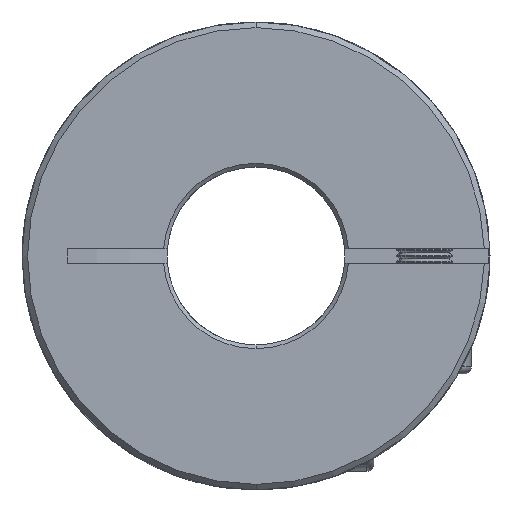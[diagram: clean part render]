
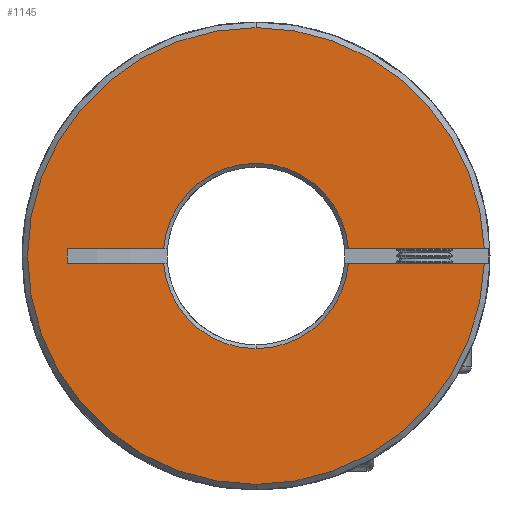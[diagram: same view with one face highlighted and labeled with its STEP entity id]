
A CAD part, front view. The second image highlights one B-rep face of the part: STEP entity #1145.
In plain terms, the highlighted planar face has unit normal (0, -1, 0).
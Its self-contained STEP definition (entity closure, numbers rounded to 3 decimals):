
#17 = EDGE_CURVE ( 'NONE', #12244, #13554, #8750, .T. ) ;
#184 = CARTESIAN_POINT ( 'NONE',  ( -50., 0., 32.858 ) ) ;
#500 = DIRECTION ( 'NONE',  ( 0., 0., 1. ) ) ;
#513 = DIRECTION ( 'NONE',  ( 0., 1., 0. ) ) ;
#555 = CARTESIAN_POINT ( 'NONE',  ( 0., 0., 0. ) ) ;
#652 = DIRECTION ( 'NONE',  ( 0., -1., 0. ) ) ;
#1077 = ORIENTED_EDGE ( 'NONE', *, *, #5175, .T. ) ;
#1117 = VECTOR ( 'NONE', #6440, 1000. ) ;
#1124 = EDGE_CURVE ( 'NONE', #12244, #11053, #4695, .T. ) ;
#1145 = ADVANCED_FACE ( 'NONE', ( #11041 ), #12324, .F. ) ;
#1152 = CARTESIAN_POINT ( 'NONE',  ( 0., 0., 0. ) ) ;
#1196 = CARTESIAN_POINT ( 'NONE',  ( -50., 0., 0.75 ) ) ;
#1332 = EDGE_LOOP ( 'NONE', ( #13031, #10195, #1077, #5553, #13160, #9099, #2732, #3099, #15033, #12731, #1380 ) ) ;
#1380 = ORIENTED_EDGE ( 'NONE', *, *, #15936, .T. ) ;
#1644 = LINE ( 'NONE', #1196, #17263 ) ;
#1831 = CARTESIAN_POINT ( 'NONE',  ( 0., 0., 0. ) ) ;
#1845 = CARTESIAN_POINT ( 'NONE',  ( 0., 0., 0. ) ) ;
#2215 = EDGE_CURVE ( 'NONE', #8787, #14183, #16840, .T. ) ;
#2252 = EDGE_CURVE ( 'NONE', #14183, #3456, #1644, .T. ) ;
#2507 = EDGE_CURVE ( 'NONE', #7037, #2924, #13044, .T. ) ;
#2531 = DIRECTION ( 'NONE',  ( 1., 0., 0. ) ) ;
#2727 = DIRECTION ( 'NONE',  ( 0., 0., 1. ) ) ;
#2732 = ORIENTED_EDGE ( 'NONE', *, *, #3165, .T. ) ;
#2924 = VERTEX_POINT ( 'NONE', #5829 ) ;
#2992 = VERTEX_POINT ( 'NONE', #4530 ) ;
#3044 = EDGE_CURVE ( 'NONE', #8787, #3680, #7550, .T. ) ;
#3099 = ORIENTED_EDGE ( 'NONE', *, *, #9931, .T. ) ;
#3165 = EDGE_CURVE ( 'NONE', #3456, #3515, #4369, .T. ) ;
#3337 = VECTOR ( 'NONE', #9224, 1000. ) ;
#3391 = CARTESIAN_POINT ( 'NONE',  ( 24.388, 0., -0.75 ) ) ;
#3415 = AXIS2_PLACEMENT_3D ( 'NONE', #1831, #16636, #500 ) ;
#3456 = VERTEX_POINT ( 'NONE', #14350 ) ;
#3497 = DIRECTION ( 'NONE',  ( 1., 0., 0. ) ) ;
#3515 = VERTEX_POINT ( 'NONE', #15709 ) ;
#3680 = VERTEX_POINT ( 'NONE', #16115 ) ;
#4369 = CIRCLE ( 'NONE', #9503, 9.9 ) ;
#4455 = CIRCLE ( 'NONE', #7772, 24.4 ) ;
#4501 = DIRECTION ( 'NONE',  ( 0., 0., 1. ) ) ;
#4530 = CARTESIAN_POINT ( 'NONE',  ( 0., 0., -24.4 ) ) ;
#4695 = LINE ( 'NONE', #7917, #1117 ) ;
#5175 = EDGE_CURVE ( 'NONE', #13554, #3680, #8156, .T. ) ;
#5553 = ORIENTED_EDGE ( 'NONE', *, *, #3044, .F. ) ;
#5701 = AXIS2_PLACEMENT_3D ( 'NONE', #184, #9548, #6953 ) ;
#5829 = CARTESIAN_POINT ( 'NONE',  ( 0., 0., 24.4 ) ) ;
#6382 = AXIS2_PLACEMENT_3D ( 'NONE', #1845, #513, #4501 ) ;
#6440 = DIRECTION ( 'NONE',  ( 1., 0., 0. ) ) ;
#6953 = DIRECTION ( 'NONE',  ( 0., 0., 1. ) ) ;
#7037 = VERTEX_POINT ( 'NONE', #12097 ) ;
#7179 = DIRECTION ( 'NONE',  ( 0., 0., 1. ) ) ;
#7550 = LINE ( 'NONE', #10242, #10930 ) ;
#7614 = CIRCLE ( 'NONE', #10812, 24.4 ) ;
#7772 = AXIS2_PLACEMENT_3D ( 'NONE', #1152, #9444, #14643 ) ;
#7917 = CARTESIAN_POINT ( 'NONE',  ( -50., 0., -0.75 ) ) ;
#8058 = DIRECTION ( 'NONE',  ( 0., 1., 0. ) ) ;
#8156 = CIRCLE ( 'NONE', #3415, 9.9 ) ;
#8198 = DIRECTION ( 'NONE',  ( 0., 0., 1. ) ) ;
#8664 = DIRECTION ( 'NONE',  ( 0., 0., 1. ) ) ;
#8716 = DIRECTION ( 'NONE',  ( 0., -1., 0. ) ) ;
#8750 = CIRCLE ( 'NONE', #6382, 9.9 ) ;
#8787 = VERTEX_POINT ( 'NONE', #16854 ) ;
#9099 = ORIENTED_EDGE ( 'NONE', *, *, #2252, .T. ) ;
#9224 = DIRECTION ( 'NONE',  ( 1., 0., 0. ) ) ;
#9288 = CARTESIAN_POINT ( 'NONE',  ( 0., 0., 0. ) ) ;
#9444 = DIRECTION ( 'NONE',  ( 0., -1., 0. ) ) ;
#9503 = AXIS2_PLACEMENT_3D ( 'NONE', #9288, #8058, #2727 ) ;
#9548 = DIRECTION ( 'NONE',  ( 0., 1., 0. ) ) ;
#9625 = CARTESIAN_POINT ( 'NONE',  ( -50., 0., 0.75 ) ) ;
#9931 = EDGE_CURVE ( 'NONE', #3515, #7037, #14738, .T. ) ;
#10021 = CARTESIAN_POINT ( 'NONE',  ( 0., 0., 0. ) ) ;
#10083 = AXIS2_PLACEMENT_3D ( 'NONE', #555, #652, #8664 ) ;
#10195 = ORIENTED_EDGE ( 'NONE', *, *, #17, .T. ) ;
#10242 = CARTESIAN_POINT ( 'NONE',  ( -50., 0., -0.75 ) ) ;
#10751 = CARTESIAN_POINT ( 'NONE',  ( 0., 0., -9.9 ) ) ;
#10812 = AXIS2_PLACEMENT_3D ( 'NONE', #10021, #8716, #7179 ) ;
#10930 = VECTOR ( 'NONE', #3497, 1000. ) ;
#11041 = FACE_OUTER_BOUND ( 'NONE', #1332, .T. ) ;
#11053 = VERTEX_POINT ( 'NONE', #3391 ) ;
#12097 = CARTESIAN_POINT ( 'NONE',  ( 24.388, 0., 0.75 ) ) ;
#12244 = VERTEX_POINT ( 'NONE', #15503 ) ;
#12324 = PLANE ( 'NONE',  #5701 ) ;
#12426 = VECTOR ( 'NONE', #8198, 1000. ) ;
#12731 = ORIENTED_EDGE ( 'NONE', *, *, #16631, .T. ) ;
#13031 = ORIENTED_EDGE ( 'NONE', *, *, #1124, .F. ) ;
#13044 = CIRCLE ( 'NONE', #10083, 24.4 ) ;
#13160 = ORIENTED_EDGE ( 'NONE', *, *, #2215, .T. ) ;
#13554 = VERTEX_POINT ( 'NONE', #10751 ) ;
#14183 = VERTEX_POINT ( 'NONE', #16724 ) ;
#14350 = CARTESIAN_POINT ( 'NONE',  ( -9.872, 0., 0.75 ) ) ;
#14643 = DIRECTION ( 'NONE',  ( 0., 0., 1. ) ) ;
#14738 = LINE ( 'NONE', #9625, #3337 ) ;
#15033 = ORIENTED_EDGE ( 'NONE', *, *, #2507, .T. ) ;
#15503 = CARTESIAN_POINT ( 'NONE',  ( 9.872, 0., -0.75 ) ) ;
#15709 = CARTESIAN_POINT ( 'NONE',  ( 9.872, 0., 0.75 ) ) ;
#15936 = EDGE_CURVE ( 'NONE', #2992, #11053, #4455, .T. ) ;
#16115 = CARTESIAN_POINT ( 'NONE',  ( -9.872, 0., -0.75 ) ) ;
#16267 = CARTESIAN_POINT ( 'NONE',  ( -20.149, 0., -0.75 ) ) ;
#16631 = EDGE_CURVE ( 'NONE', #2924, #2992, #7614, .T. ) ;
#16636 = DIRECTION ( 'NONE',  ( 0., 1., 0. ) ) ;
#16724 = CARTESIAN_POINT ( 'NONE',  ( -20.149, 0., 0.75 ) ) ;
#16840 = LINE ( 'NONE', #16267, #12426 ) ;
#16854 = CARTESIAN_POINT ( 'NONE',  ( -20.149, 0., -0.75 ) ) ;
#17263 = VECTOR ( 'NONE', #2531, 1000. ) ;
